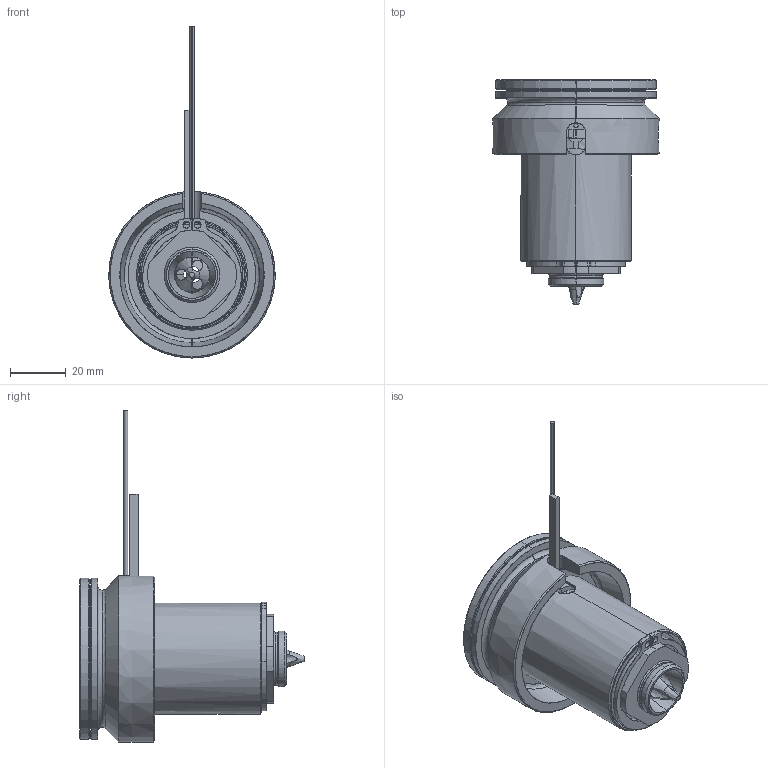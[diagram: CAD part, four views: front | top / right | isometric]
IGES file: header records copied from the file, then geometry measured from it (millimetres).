
Start section: SolidWorks IGES file using analytic representation for surfaces
Global section: file name: C:\Documents and Settings\ws-20\Desktop\TEM\UGEP6002-S-A-0 [Øf-1.9 ØC-15].IGS; native system: SolidWorks 2012; preprocessor: SolidWorks 2012; author: ws-20; date: 120427.092451; units: millimetre
Bounding box: 60 x 80.8 x 119.65 mm (x, y, z)
Surface area: 39360.7 mm2 (no closed solid volume)
Topology: 0 solids, 0 shells, 134 faces, 2767 edges, 2767 vertices
Faces by surface type: revolution 85, bspline 49
